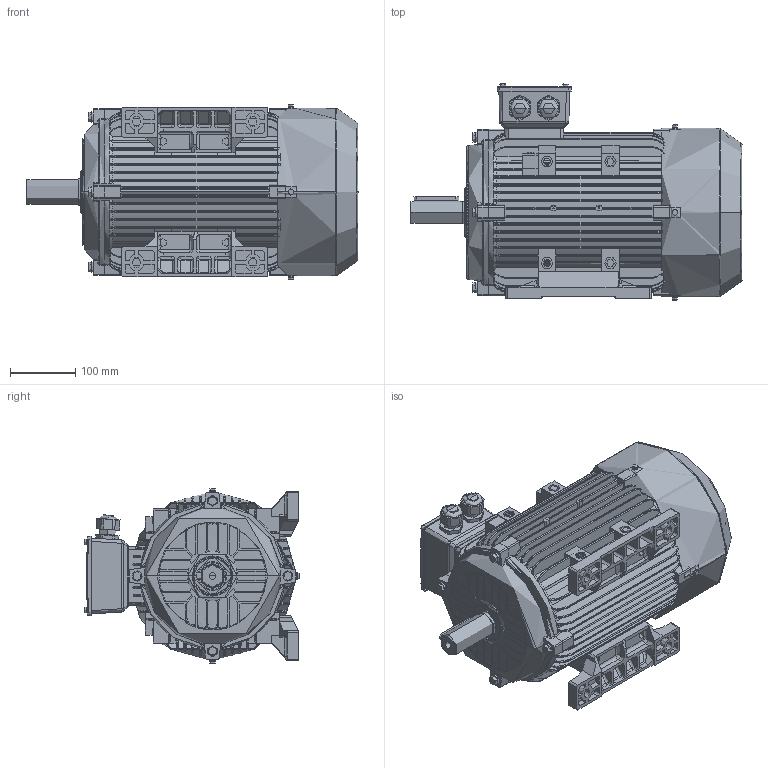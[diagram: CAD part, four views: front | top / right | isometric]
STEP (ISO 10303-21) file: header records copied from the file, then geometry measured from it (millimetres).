
FILE_DESCRIPTION (( 'STEP AP203' ), '1' );
FILE_NAME ('132MB3.STEP', '2019-12-02T07:30:34', ( '' ), ( '' ), 'SwSTEP 2.0', 'SolidWorks 2013', '' );
FILE_SCHEMA (( 'CONFIG_CONTROL_DESIGN' ));
Products named in the file (1): 132MB3
Bounding box: 507.85 x 330.32 x 267.75 mm (x, y, z)
Topology: 0 solids, 55 shells, 2839 faces, 8285 edges, 5299 vertices
Faces by surface type: cylinder 973, plane 966, bspline 715, cone 185
Entity records: 136302 total; most frequent: CARTESIAN_POINT 68857, ORIENTED_EDGE 14616, DIRECTION 12196, EDGE_CURVE 8170, VERTEX_POINT 5300, AXIS2_PLACEMENT_3D 4252, VECTOR 3692, LINE 3692
